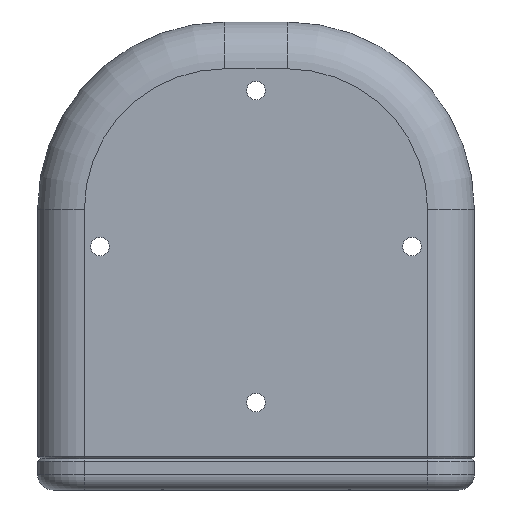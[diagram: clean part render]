
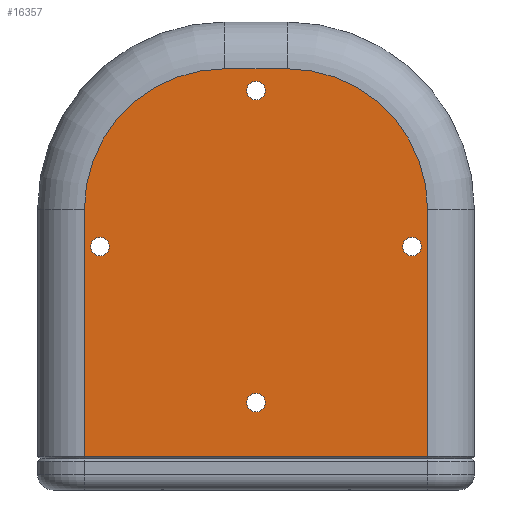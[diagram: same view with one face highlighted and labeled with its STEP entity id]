
A CAD part, left-side view. The second image highlights one B-rep face of the part: STEP entity #16357.
In plain terms, the highlighted planar face has unit normal (-1, 0, 0).
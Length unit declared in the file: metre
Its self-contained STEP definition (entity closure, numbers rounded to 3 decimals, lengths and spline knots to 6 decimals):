
#25 = VERTEX_POINT ( 'NONE', #26005 ) ;
#781 = DIRECTION ( 'NONE',  ( 0., 1., 0. ) ) ;
#1143 = FACE_OUTER_BOUND ( 'NONE', #14427, .T. ) ;
#1190 = CARTESIAN_POINT ( 'NONE',  ( -0.08255, -0.034925, 0.0889 ) ) ;
#1217 = VERTEX_POINT ( 'NONE', #22718 ) ;
#1265 = AXIS2_PLACEMENT_3D ( 'NONE', #1937, #33142, #24573 ) ;
#1586 = DIRECTION ( 'NONE',  ( 0., 0., 1. ) ) ;
#1591 = CARTESIAN_POINT ( 'NONE',  ( -0.08255, 0.034925, 0.000508 ) ) ;
#1810 = VERTEX_POINT ( 'NONE', #7957 ) ;
#1937 = CARTESIAN_POINT ( 'NONE',  ( -0.08255, 0.00635, 0.0508 ) ) ;
#2170 = CARTESIAN_POINT ( 'NONE',  ( -0.08255, -0.00635, 0.079375 ) ) ;
#2324 = DIRECTION ( 'NONE',  ( -1., 0., 0. ) ) ;
#2398 = DIRECTION ( 'NONE',  ( -1., 0., 0. ) ) ;
#2566 = CARTESIAN_POINT ( 'NONE',  ( -0.08255, -0.034925, 0.000508 ) ) ;
#3420 = DIRECTION ( 'NONE',  ( 1., 0., 0. ) ) ;
#3523 = DIRECTION ( 'NONE',  ( -1., 0., 0. ) ) ;
#3527 = VERTEX_POINT ( 'NONE', #2170 ) ;
#3547 = EDGE_CURVE ( 'NONE', #25, #6916, #36156, .T. ) ;
#3888 = CIRCLE ( 'NONE', #8094, 0.001899 ) ;
#3917 = CIRCLE ( 'NONE', #11118, 0.028575 ) ;
#4200 = AXIS2_PLACEMENT_3D ( 'NONE', #10406, #29763, #1586 ) ;
#4313 = CARTESIAN_POINT ( 'NONE',  ( -0.08255, 0.034925, 0.0889 ) ) ;
#4553 = EDGE_CURVE ( 'NONE', #9971, #28491, #5450, .T. ) ;
#5290 = CARTESIAN_POINT ( 'NONE',  ( -0.08255, 0., 0.01143 ) ) ;
#5450 = CIRCLE ( 'NONE', #1265, 0.028575 ) ;
#6387 = EDGE_LOOP ( 'NONE', ( #15021, #9882 ) ) ;
#6916 = VERTEX_POINT ( 'NONE', #10832 ) ;
#7307 = DIRECTION ( 'NONE',  ( 0., 0., -1. ) ) ;
#7585 = AXIS2_PLACEMENT_3D ( 'NONE', #15671, #30346, #27405 ) ;
#7957 = CARTESIAN_POINT ( 'NONE',  ( -0.08255, 0.03175, 0.041281 ) ) ;
#8023 = DIRECTION ( 'NONE',  ( 0., 0., 1. ) ) ;
#8094 = AXIS2_PLACEMENT_3D ( 'NONE', #36222, #2398, #8023 ) ;
#8216 = VECTOR ( 'NONE', #22682, 1. ) ;
#8779 = ORIENTED_EDGE ( 'NONE', *, *, #4553, .T. ) ;
#9235 = FACE_BOUND ( 'NONE', #15655, .T. ) ;
#9317 = CARTESIAN_POINT ( 'NONE',  ( -0.08255, 0.00635, 0.079375 ) ) ;
#9882 = ORIENTED_EDGE ( 'NONE', *, *, #33555, .F. ) ;
#9908 = CARTESIAN_POINT ( 'NONE',  ( -0.08255, 0.034925, 0.0508 ) ) ;
#9971 = VERTEX_POINT ( 'NONE', #9317 ) ;
#10115 = VERTEX_POINT ( 'NONE', #1591 ) ;
#10406 = CARTESIAN_POINT ( 'NONE',  ( -0.08255, 0., 0.01143 ) ) ;
#10820 = ORIENTED_EDGE ( 'NONE', *, *, #23108, .T. ) ;
#10832 = CARTESIAN_POINT ( 'NONE',  ( -0.08255, -0.03175, 0.041281 ) ) ;
#11118 = AXIS2_PLACEMENT_3D ( 'NONE', #31220, #22681, #11474 ) ;
#11305 = CARTESIAN_POINT ( 'NONE',  ( -0.08255, 0.00635, 0.079375 ) ) ;
#11431 = EDGE_CURVE ( 'NONE', #1810, #26439, #33282, .T. ) ;
#11474 = DIRECTION ( 'NONE',  ( 0., 1., 0. ) ) ;
#11690 = CARTESIAN_POINT ( 'NONE',  ( -0.08255, 0.03175, 0.045079 ) ) ;
#12321 = ORIENTED_EDGE ( 'NONE', *, *, #25548, .F. ) ;
#13497 = AXIS2_PLACEMENT_3D ( 'NONE', #25108, #36493, #25291 ) ;
#13747 = DIRECTION ( 'NONE',  ( 0., 0., 1. ) ) ;
#13913 = DIRECTION ( 'NONE',  ( -1., 0., 0. ) ) ;
#14427 = EDGE_LOOP ( 'NONE', ( #10820, #26510, #19572, #29059, #22327, #8779 ) ) ;
#15021 = ORIENTED_EDGE ( 'NONE', *, *, #3547, .F. ) ;
#15062 = DIRECTION ( 'NONE',  ( 0., 0., 1. ) ) ;
#15417 = VERTEX_POINT ( 'NONE', #28917 ) ;
#15655 = EDGE_LOOP ( 'NONE', ( #24982, #12321 ) ) ;
#15671 = CARTESIAN_POINT ( 'NONE',  ( -0.08255, -0.03175, 0.04318 ) ) ;
#15978 = LINE ( 'NONE', #36131, #18143 ) ;
#16093 = EDGE_CURVE ( 'NONE', #31684, #21027, #26263, .T. ) ;
#16317 = DIRECTION ( 'NONE',  ( -1., 0., 0. ) ) ;
#16357 = ADVANCED_FACE ( 'NONE', ( #17990, #9235, #26576, #20804, #1143 ), #26768, .F. ) ;
#16457 = AXIS2_PLACEMENT_3D ( 'NONE', #5290, #13913, #27525 ) ;
#16793 = ORIENTED_EDGE ( 'NONE', *, *, #36358, .F. ) ;
#17990 = FACE_BOUND ( 'NONE', #34977, .T. ) ;
#18143 = VECTOR ( 'NONE', #22299, 1. ) ;
#19355 = AXIS2_PLACEMENT_3D ( 'NONE', #32175, #3420, #781 ) ;
#19572 = ORIENTED_EDGE ( 'NONE', *, *, #16093, .T. ) ;
#20086 = AXIS2_PLACEMENT_3D ( 'NONE', #34695, #3523, #25758 ) ;
#20804 = FACE_BOUND ( 'NONE', #33581, .T. ) ;
#21027 = VERTEX_POINT ( 'NONE', #24572 ) ;
#21999 = EDGE_CURVE ( 'NONE', #3527, #9971, #31043, .T. ) ;
#22185 = VERTEX_POINT ( 'NONE', #24520 ) ;
#22299 = DIRECTION ( 'NONE',  ( 0., -1., 0. ) ) ;
#22327 = ORIENTED_EDGE ( 'NONE', *, *, #21999, .T. ) ;
#22682 = DIRECTION ( 'NONE',  ( 0., 1., 0. ) ) ;
#22681 = DIRECTION ( 'NONE',  ( -1., 0., 0. ) ) ;
#22718 = CARTESIAN_POINT ( 'NONE',  ( -0.08255, 0., 0.076829 ) ) ;
#23108 = EDGE_CURVE ( 'NONE', #28491, #10115, #33085, .T. ) ;
#23155 = VECTOR ( 'NONE', #7307, 1. ) ;
#23299 = ORIENTED_EDGE ( 'NONE', *, *, #35029, .F. ) ;
#23930 = EDGE_CURVE ( 'NONE', #10115, #31684, #15978, .T. ) ;
#24520 = CARTESIAN_POINT ( 'NONE',  ( -0.08255, 0., 0.013329 ) ) ;
#24572 = CARTESIAN_POINT ( 'NONE',  ( -0.08255, -0.034925, 0.0508 ) ) ;
#24573 = DIRECTION ( 'NONE',  ( 0., 1., 0. ) ) ;
#24871 = EDGE_CURVE ( 'NONE', #21027, #3527, #3917, .T. ) ;
#24982 = ORIENTED_EDGE ( 'NONE', *, *, #30817, .F. ) ;
#25108 = CARTESIAN_POINT ( 'NONE',  ( -0.08255, -0.03175, 0.04318 ) ) ;
#25291 = DIRECTION ( 'NONE',  ( 0., 0., 1. ) ) ;
#25425 = CIRCLE ( 'NONE', #13497, 0.001899 ) ;
#25548 = EDGE_CURVE ( 'NONE', #15417, #22185, #32532, .T. ) ;
#25758 = DIRECTION ( 'NONE',  ( 0., 0., 1. ) ) ;
#25929 = CIRCLE ( 'NONE', #29446, 0.001899 ) ;
#26005 = CARTESIAN_POINT ( 'NONE',  ( -0.08255, -0.03175, 0.045079 ) ) ;
#26263 = LINE ( 'NONE', #1190, #30608 ) ;
#26439 = VERTEX_POINT ( 'NONE', #11690 ) ;
#26510 = ORIENTED_EDGE ( 'NONE', *, *, #23930, .T. ) ;
#26576 = FACE_BOUND ( 'NONE', #6387, .T. ) ;
#26768 = PLANE ( 'NONE',  #19355 ) ;
#27405 = DIRECTION ( 'NONE',  ( 0., 0., 1. ) ) ;
#27525 = DIRECTION ( 'NONE',  ( 0., 0., 1. ) ) ;
#27913 = CARTESIAN_POINT ( 'NONE',  ( -0.08255, 0., 0.07493 ) ) ;
#28491 = VERTEX_POINT ( 'NONE', #9908 ) ;
#28774 = ORIENTED_EDGE ( 'NONE', *, *, #11431, .F. ) ;
#28917 = CARTESIAN_POINT ( 'NONE',  ( -0.08255, 0., 0.009531 ) ) ;
#29059 = ORIENTED_EDGE ( 'NONE', *, *, #24871, .T. ) ;
#29446 = AXIS2_PLACEMENT_3D ( 'NONE', #27913, #2324, #13747 ) ;
#29763 = DIRECTION ( 'NONE',  ( -1., 0., 0. ) ) ;
#30143 = VERTEX_POINT ( 'NONE', #36740 ) ;
#30346 = DIRECTION ( 'NONE',  ( -1., 0., 0. ) ) ;
#30458 = CARTESIAN_POINT ( 'NONE',  ( -0.08255, 0.03175, 0.04318 ) ) ;
#30608 = VECTOR ( 'NONE', #15062, 1. ) ;
#30817 = EDGE_CURVE ( 'NONE', #22185, #15417, #31653, .T. ) ;
#31043 = LINE ( 'NONE', #11305, #8216 ) ;
#31220 = CARTESIAN_POINT ( 'NONE',  ( -0.08255, -0.00635, 0.0508 ) ) ;
#31653 = CIRCLE ( 'NONE', #4200, 0.001899 ) ;
#31684 = VERTEX_POINT ( 'NONE', #2566 ) ;
#32175 = CARTESIAN_POINT ( 'NONE',  ( -0.08255, 0.04445, 0.0889 ) ) ;
#32458 = ORIENTED_EDGE ( 'NONE', *, *, #34064, .F. ) ;
#32532 = CIRCLE ( 'NONE', #16457, 0.001899 ) ;
#33085 = LINE ( 'NONE', #4313, #23155 ) ;
#33142 = DIRECTION ( 'NONE',  ( -1., 0., 0. ) ) ;
#33282 = CIRCLE ( 'NONE', #36290, 0.001899 ) ;
#33453 = DIRECTION ( 'NONE',  ( 0., 0., 1. ) ) ;
#33555 = EDGE_CURVE ( 'NONE', #6916, #25, #25425, .T. ) ;
#33581 = EDGE_LOOP ( 'NONE', ( #16793, #23299 ) ) ;
#34064 = EDGE_CURVE ( 'NONE', #26439, #1810, #3888, .T. ) ;
#34388 = CIRCLE ( 'NONE', #20086, 0.001899 ) ;
#34695 = CARTESIAN_POINT ( 'NONE',  ( -0.08255, 0., 0.07493 ) ) ;
#34977 = EDGE_LOOP ( 'NONE', ( #32458, #28774 ) ) ;
#35029 = EDGE_CURVE ( 'NONE', #30143, #1217, #34388, .T. ) ;
#36131 = CARTESIAN_POINT ( 'NONE',  ( -0.08255, 0.04445, 0.000508 ) ) ;
#36156 = CIRCLE ( 'NONE', #7585, 0.001899 ) ;
#36222 = CARTESIAN_POINT ( 'NONE',  ( -0.08255, 0.03175, 0.04318 ) ) ;
#36290 = AXIS2_PLACEMENT_3D ( 'NONE', #30458, #16317, #33453 ) ;
#36358 = EDGE_CURVE ( 'NONE', #1217, #30143, #25929, .T. ) ;
#36493 = DIRECTION ( 'NONE',  ( -1., 0., 0. ) ) ;
#36740 = CARTESIAN_POINT ( 'NONE',  ( -0.08255, 0., 0.073031 ) ) ;
